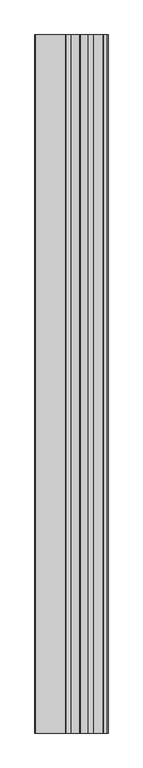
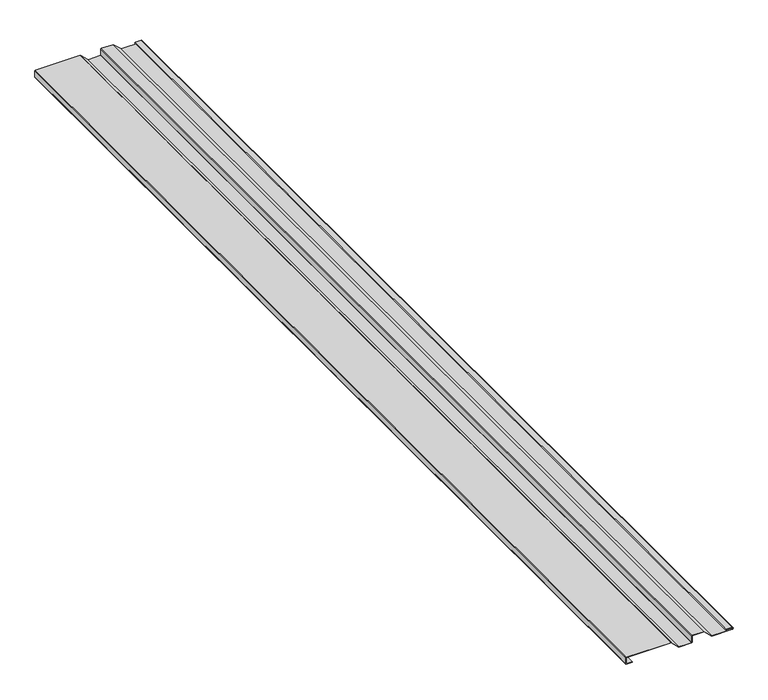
"""IFC4 building model written with IfcOpenShell, lengths in millimetres: proxy geometry, Perception-Collection_Panel_PC-30_AEP_Span : Perception Collection PC30-12c - 20ga."""

from ifc_helpers import new_model, si_unit, point, frame, frame_2d, origin, place, context, project, spatial, polyline, circle_curve, trimmed, segment, composite_curve, outline, extrude, source, transform, mapped, element, save


def generic_models_fe2d6f0d(model_context):
    return source(origin(), model_context, "Body", "SweptSolid", [
        extrude(outline(composite_curve([segment(trimmed(circle_curve(frame_2d((20.9571211, -31.108741)), 1.444969), [point((22.0139046, -30.1232745))], [point((22.4020902, -31.108741))], False, "CARTESIAN"), True, "CONTINUOUS"), segment(polyline([(22.4020902, -31.108741), (22.4020902, -164.2532522)]), True, "CONTINUOUS"), segment(trimmed(circle_curve(frame_2d((20.9571211, -164.2532522)), 1.444969), [point((22.4020902, -164.2532522))], [point((20.9571211, -165.6982213))], False, "CARTESIAN"), True, "CONTINUOUS"), segment(polyline([(20.9571211, -165.6982213), (2.3445438, -165.6982213)]), True, "CONTINUOUS"), segment(trimmed(circle_curve(frame_2d((2.3445438, -164.2532522)), 1.444969), [point((2.3445438, -165.6982213))], [point((0.8995747, -164.2532522))], False, "CARTESIAN"), True, "CONTINUOUS"), segment(polyline([(0.8995747, -164.2532522), (0.8995747, -147.2674937), (1.7987347, -147.2674937), (1.7987347, -164.247061)]), True, "CONTINUOUS"), segment(trimmed(circle_curve(frame_2d((2.350735, -164.247061)), 0.5520003), [point((1.7987347, -164.247061))], [point((2.350735, -164.7990613))], True, "CARTESIAN"), True, "CONTINUOUS"), segment(polyline([(2.350735, -164.7990613), (20.9509299, -164.7990613)]), True, "CONTINUOUS"), segment(trimmed(circle_curve(frame_2d((20.9509299, -164.247061)), 0.5520003), [point((20.9509299, -164.7990613))], [point((21.5029302, -164.247061))], True, "CARTESIAN"), True, "CONTINUOUS"), segment(polyline([(21.5029302, -164.247061), (21.5029302, -30.8937411), (0.0, -7.8346716), (0.0, 30.1805701)]), True, "CONTINUOUS"), segment(trimmed(circle_curve(frame_2d((1.6154533, 30.1805701)), 1.6154533), [point((0.0, 30.1805701))], [point((1.6154533, 31.7960233))], False, "CARTESIAN"), True, "CONTINUOUS"), segment(polyline([(1.6154533, 31.7960233), (20.9505152, 31.7960233)]), True, "CONTINUOUS"), segment(trimmed(circle_curve(frame_2d((20.9505152, 32.3480236)), 0.5520003), [point((20.9505152, 31.7960233))], [point((21.5025155, 32.3480236))], True, "CARTESIAN"), True, "CONTINUOUS"), segment(polyline([(21.5025155, 32.3480236), (21.5025155, 67.4041299), (-0.0004147, 90.4631994), (-0.0004147, 150.5825615)]), True, "CONTINUOUS"), segment(trimmed(circle_curve(frame_2d((3.1595812, 150.5825615)), 3.1599959), [point((-0.0004147, 150.5825615))], [point((6.3195771, 150.5825615))], False, "CARTESIAN"), True, "CONTINUOUS"), segment(polyline([(6.3195771, 150.5825615), (6.3195771, 133.1470933)]), True, "CONTINUOUS"), segment(trimmed(circle_curve(frame_2d((5.0591749, 133.1470933)), 1.2604023), [point((6.3195771, 133.1470933))], [point((3.7987726, 133.1470933))], False, "CARTESIAN"), True, "CONTINUOUS"), segment(polyline([(3.7987726, 133.1470933), (3.7987726, 144.3505182), (4.6979326, 144.3505182), (4.6979326, 133.1470933)]), True, "CONTINUOUS"), segment(trimmed(circle_curve(frame_2d((5.0591749, 133.1470933)), 0.3612423), [point((4.6979326, 133.1470933))], [point((5.4204171, 133.1470933))], True, "CARTESIAN"), True, "CONTINUOUS"), segment(polyline([(5.4204171, 133.1470933), (5.4204171, 150.5825615)]), True, "CONTINUOUS"), segment(trimmed(circle_curve(frame_2d((3.1595812, 150.5825615)), 2.2608359), [point((5.4204171, 150.5825615))], [point((0.8987453, 150.5825615))], True, "CARTESIAN"), True, "CONTINUOUS"), segment(polyline([(0.8987453, 150.5825615), (0.8987453, 90.817388), (22.0134899, 68.1745965)]), True, "CONTINUOUS"), segment(trimmed(circle_curve(frame_2d((20.9567064, 67.18913)), 1.444969), [point((22.0134899, 68.1745965))], [point((22.4016755, 67.18913))], False, "CARTESIAN"), True, "CONTINUOUS"), segment(polyline([(22.4016755, 67.18913), (22.4016755, 32.3418324)]), True, "CONTINUOUS"), segment(trimmed(circle_curve(frame_2d((20.9567064, 32.3418324)), 1.444969), [point((22.4016755, 32.3418324))], [point((20.9567064, 30.8968633))], False, "CARTESIAN"), True, "CONTINUOUS"), segment(polyline([(20.9567064, 30.8968633), (1.6216445, 30.8968633)]), True, "CONTINUOUS"), segment(trimmed(circle_curve(frame_2d((1.6216445, 30.1743788)), 0.7224845), [point((1.6216445, 30.8968633))], [point((0.89916, 30.1743788))], True, "CARTESIAN"), True, "CONTINUOUS"), segment(polyline([(0.89916, 30.1743788), (0.89916, -7.480483), (22.0139046, -30.1232745)]), True, "CONTINUOUS")], self_intersect=False)), frame((0.0, -3048.0, 0.0), z_axis=(0.0, 1.0, 0.0), x_axis=(0.0, 0.0, 1.0)), (0.0, 0.0, 1.0), 3048.0),
    ])


if __name__ == "__main__":
    model = new_model("IFC4")
    model_context = context("Model", 3, world=origin())
    ifc_project = project(units=[si_unit("LENGTHUNIT", "METRE", prefix="MILLI")], contexts=[model_context])
    site = spatial("IfcSite", under=ifc_project)
    building = spatial("IfcBuilding", under=site)
    placement = place(None, origin())
    generic_models_shape = generic_models_fe2d6f0d(model_context)
    element("IfcBuildingElementProxy", 1, Name="Perception-Collection_Panel_PC-30_AEP_Span : Perception Collection PC30-12c - 20ga", ObjectType="Perception-Collection_Panel_PC-30_AEP_Span : Perception Collection PC30-12c - 20ga", at=placement, inside=building, context=model_context, shape_type="MappedRepresentation", body=[
        mapped(generic_models_shape, transform((0.0, 0.0, 0.0), x_axis=(1.0, 0.0, 0.0), y_axis=(0.0, 1.0, 0.0), z_axis=(0.0, 0.0, 1.0))),
    ])
    save(model, "model.ifc")
